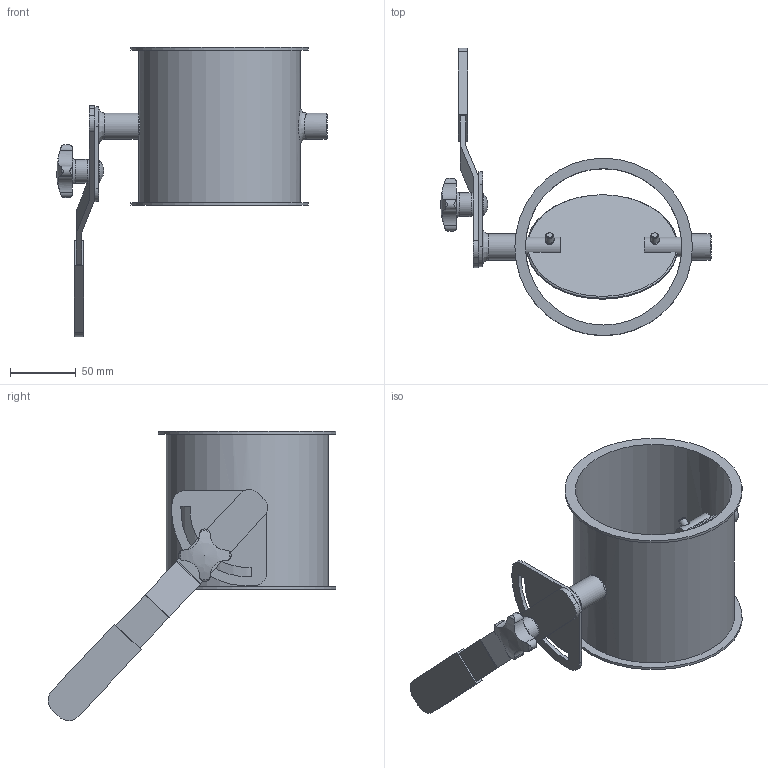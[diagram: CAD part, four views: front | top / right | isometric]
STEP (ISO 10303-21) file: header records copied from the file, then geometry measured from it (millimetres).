
FILE_DESCRIPTION((''),'2;1');
FILE_NAME('U:\Wolfgang\Marcel-3D\fertig\Kapitel 8\1221075.stp','2011-05-03T15:05:09',('TK1'),(''),'Autodesk Inventor 2010','Autodesk Inventor 2010','');
FILE_SCHEMA(('AUTOMOTIVE_DESIGN { 1 0 10303 214 1 1 1 1 }'));
Length unit declared in the file: millimetre
Products named in the file (9): 1221075; Bolzen D15; Griff D15; Umstellsegment D15; DIN 6912 M6 x 16; ganter_din_6335-ku-40-m8-k; Scheibe120; DIN 603 M6 x 25; 1221075-1
Assembly tree (9 placements, depth 2):
  1221075
    Bolzen D15
    Griff D15
    Umstellsegment D15
    DIN 6912 M6 x 16  x2
    ganter_din_6335-ku-40-m8-k
    Scheibe120
    DIN 603 M6 x 25
    1221075-1
Bounding box: 206 x 219 x 219.95 mm (x, y, z)
Volume: 210819.5 mm3; surface area: 163750.6 mm2
Topology: 9 solids, 9 shells, 164 faces, 399 edges, 264 vertices
Faces by surface type: plane 75, cylinder 54, cone 16, torus 9, bspline 8, sphere 2
Full cylindrical faces by diameter (mm): 3 x2, 6 x7, 6.4 x1, 7 x1, 10 x4, 13 x1, 14 x2, 15 x4, 16.55 x1, 18 x1, 20 x3, 115 x1, 119 x1, 123 x1, 135 x2
Entity records: 5304 total; most frequent: CARTESIAN_POINT 1823, DIRECTION 686, ORIENTED_EDGE 592, EDGE_CURVE 296, AXIS2_PLACEMENT_3D 290, EDGE_LOOP 229, VERTEX_POINT 221, FACE_OUTER_BOUND 149
